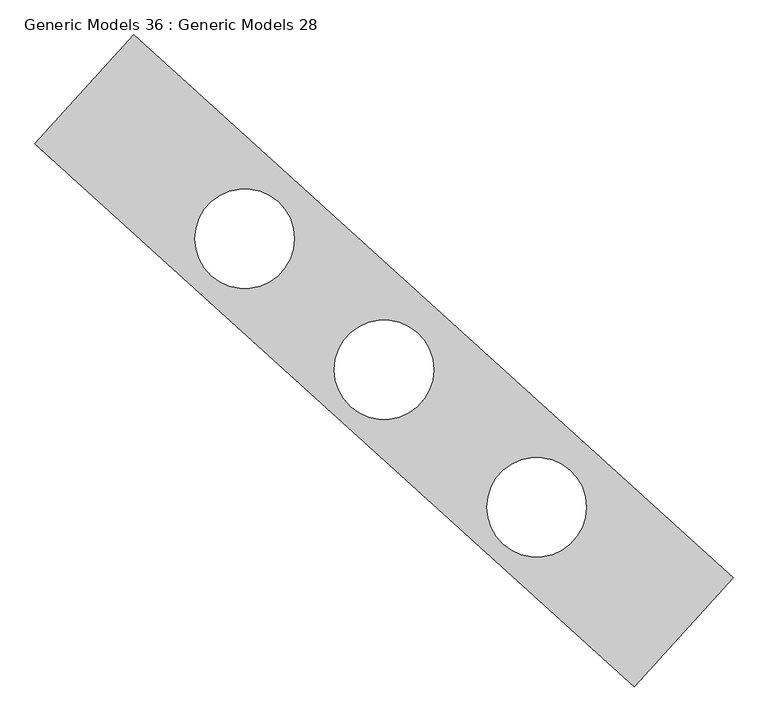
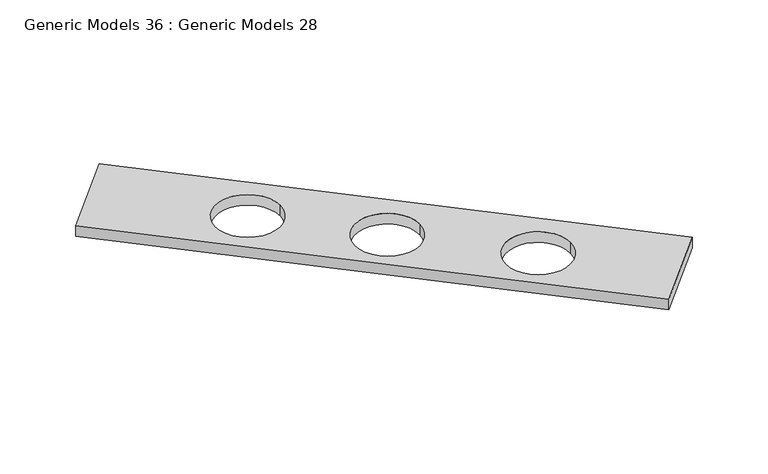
"""IFC4 building model written with IfcOpenShell, lengths in millimetres: proxy geometry, Generic Models 36 : Generic Models 28."""

from ifc_helpers import new_model, si_unit, point, frame, frame_2d, origin, place, context, project, spatial, polyline, circle_curve, trimmed, segment, composite_curve, outline, extrude, source, transform, mapped, element, save


def generic_models_36_generic_models_28_15abf481(model_context):
    return source(origin(), model_context, "Body", "SweptSolid", [
        extrude(outline(polyline([(-8250.9180014, 1042.7119004), (-5804.7296541, -1172.2255425), (-6207.4462277, -1616.9878056), (-8653.7484955, 597.8238229), (-8250.9180014, 1042.7119004)]), holes=[composite_curve([segment(trimmed(circle_curve(frame_2d((-7797.5687728, 210.9844576)), 203.0), [point((-8000.5687728, 210.9844576))], [point((-7594.5687728, 210.9844576))], True, "CARTESIAN"), True, "CONTINUOUS"), segment(trimmed(circle_curve(frame_2d((-7797.5687728, 210.9844576)), 203.0), [point((-7594.5687728, 210.9844576))], [point((-8000.5687728, 210.9844576))], True, "CARTESIAN"), True, "CONTINUOUS")], self_intersect=False), composite_curve([segment(trimmed(circle_curve(frame_2d((-7229.2740139, -323.5519799)), 203.0), [point((-7432.2740139, -323.5519799))], [point((-7026.2740139, -323.5519799))], True, "CARTESIAN"), True, "CONTINUOUS"), segment(trimmed(circle_curve(frame_2d((-7229.2740139, -323.5519799)), 203.0), [point((-7026.2740139, -323.5519799))], [point((-7432.2740139, -323.5519799))], True, "CARTESIAN"), True, "CONTINUOUS")], self_intersect=False), composite_curve([segment(trimmed(circle_curve(frame_2d((-6606.1873579, -884.5817249)), 203.0), [point((-6809.1873579, -884.5817249))], [point((-6403.1873579, -884.5817249))], True, "CARTESIAN"), True, "CONTINUOUS"), segment(trimmed(circle_curve(frame_2d((-6606.1873579, -884.5817249)), 203.0), [point((-6403.1873579, -884.5817249))], [point((-6809.1873579, -884.5817249))], True, "CARTESIAN"), True, "CONTINUOUS")], self_intersect=False)]), frame((0.0, 0.0, 830.0), z_axis=(0.0, 0.0, 1.0), x_axis=(1.0, 0.0, 0.0)), (0.0, 0.0, 1.0), 70.0),
    ])


if __name__ == "__main__":
    model = new_model("IFC4")
    model_context = context("Model", 3, world=origin())
    ifc_project = project(units=[si_unit("LENGTHUNIT", "METRE", prefix="MILLI")], contexts=[model_context])
    site = spatial("IfcSite", under=ifc_project)
    building = spatial("IfcBuilding", under=site)
    placement = place(None, origin())
    generic_models_36_generic_models_28_shape = generic_models_36_generic_models_28_15abf481(model_context)
    element("IfcBuildingElementProxy", 1, Name="Generic Models 36 : Generic Models 28", ObjectType="Generic Models 36 : Generic Models 28", at=placement, inside=building, context=model_context, shape_type="MappedRepresentation", body=[
        mapped(generic_models_36_generic_models_28_shape, transform((0.0, 0.0, 0.0), x_axis=(1.0, 0.0, 0.0), y_axis=(0.0, 1.0, 0.0), z_axis=(0.0, 0.0, 1.0))),
    ])
    save(model, "model.ifc")
